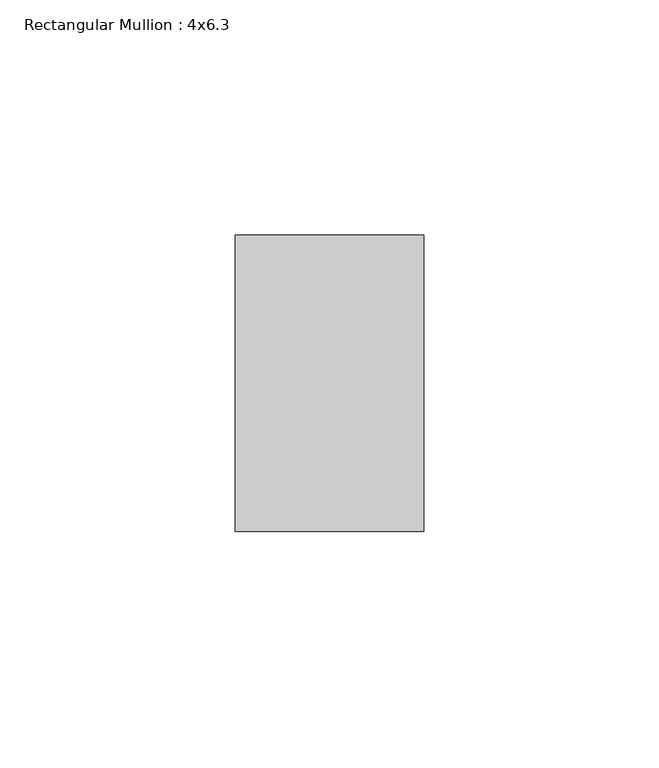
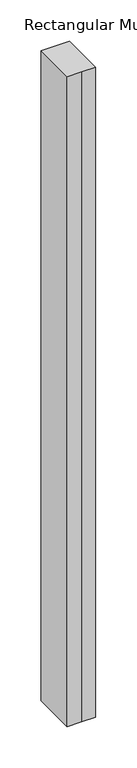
"""IFC4 building model written with IfcOpenShell, lengths in millimetres: member geometry, Rectangular Mullion : 4x6.3."""

from ifc_helpers import new_model, si_unit, frame, origin, place, context, project, spatial, polyline, outline, extrude, source, transform, mapped, element, save


def rectangular_mullion_4x6_3_21413940(model_context):
    return source(origin(), model_context, "Body", "SweptSolid", [
        extrude(outline(polyline([(-20.0, 20.0), (-20.0, 83.0), (20.0, 83.0), (20.0, 20.0), (0.0, 20.0), (-20.0, 20.0)])), frame((0.0, 0.0, -961.5856385), z_axis=(0.0, 0.0, 1.0), x_axis=(1.0, 0.0, 0.0)), (0.0, 0.0, 1.0), 961.5856385),
    ])


if __name__ == "__main__":
    model = new_model("IFC4")
    model_context = context("Model", 3, world=origin())
    ifc_project = project(units=[si_unit("LENGTHUNIT", "METRE", prefix="MILLI")], contexts=[model_context])
    site = spatial("IfcSite", under=ifc_project)
    building = spatial("IfcBuilding", under=site)
    placement = place(None, origin())
    rectangular_mullion_4x6_3_shape = rectangular_mullion_4x6_3_21413940(model_context)
    element("IfcMember", 1, ObjectType="Rectangular Mullion : 4x6.3", at=placement, inside=building, context=model_context, shape_type="MappedRepresentation", body=[
        mapped(rectangular_mullion_4x6_3_shape, transform((0.0, 0.0, 0.0), x_axis=(1.0, 0.0, 0.0), y_axis=(0.0, 1.0, 0.0), z_axis=(0.0, 0.0, 1.0))),
    ])
    save(model, "model.ifc")
